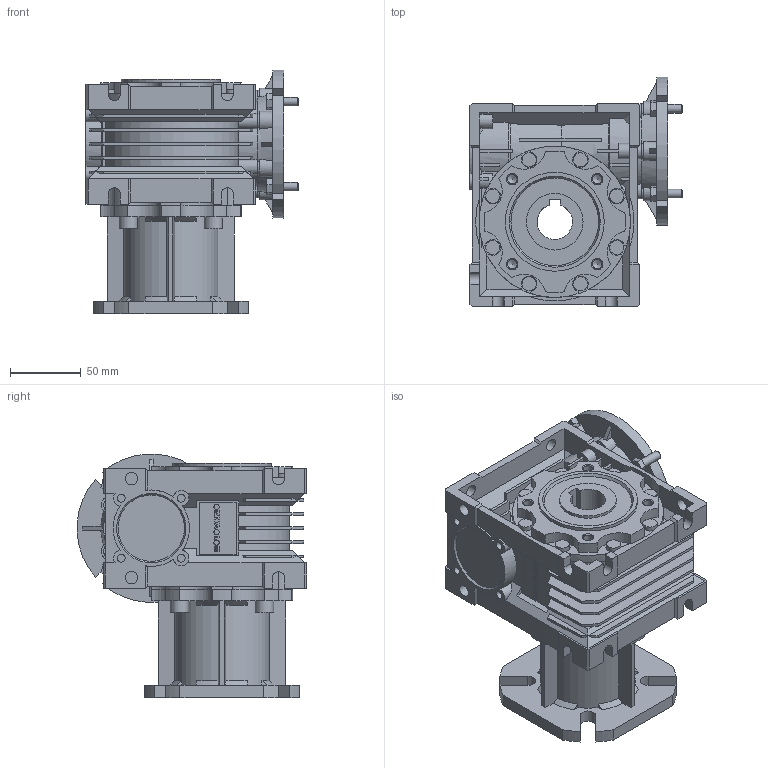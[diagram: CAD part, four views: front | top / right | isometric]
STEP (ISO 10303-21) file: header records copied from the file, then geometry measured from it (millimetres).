
FILE_DESCRIPTION(/* description */ ('STEP AP203'),/* implementation_level */ '2;1');
FILE_NAME(/* name */ 'NMRV0501332513300300NO---_---------------',/* time_stamp */ '2025-11-24T01:44:14+01:00',/* author */ ('License CC BY-ND 4.0'),/* organization */ ('CADENAS'),/* preprocessor_version */ 'ST-DEVELOPER v20',/* originating_system */ 'PARTsolutions',/* authorisation */ ' ');
FILE_SCHEMA (('CONFIG_CONTROL_DESIGN'));
Length unit declared in the file: millimetre
Products named in the file (6): NMRV0501332513300300NO---(---------------); Gear unit 50; 050-25 (92)alc-n; FU 50FB; VB 050-14 (14); 50-71 B14
Assembly tree (5 placements, depth 2):
  NMRV0501332513300300NO---(---------------)
    Gear unit 50
    050-25 (92)alc-n
    FU 50FB
    VB 050-14 (14)
    50-71 B14
Bounding box: 150 x 162.33 x 172.33 mm (x, y, z)
Volume: 1204701.3 mm3; surface area: 292704.3 mm2
Topology: 5 solids, 10 shells, 1060 faces, 2828 edges, 1845 vertices
Faces by surface type: plane 705, cylinder 257, cone 96, torus 2
Full cylindrical faces by diameter (mm): 3.775 x3, 5.55 x4, 6 x4, 6.647 x8, 8.8 x8, 10 x14, 13 x4, 16 x1, 28 x2, 34 x1, 40 x2, 47 x2, 55 x1, 60 x1, 70 x4, 107 x1
Entity records: 32835 total; most frequent: CARTESIAN_POINT 6401, DIRECTION 5443, ORIENTED_EDGE 5440, EDGE_CURVE 2720, AXIS2_PLACEMENT_3D 1893, VERTEX_POINT 1833, LINE 1657, VECTOR 1657
